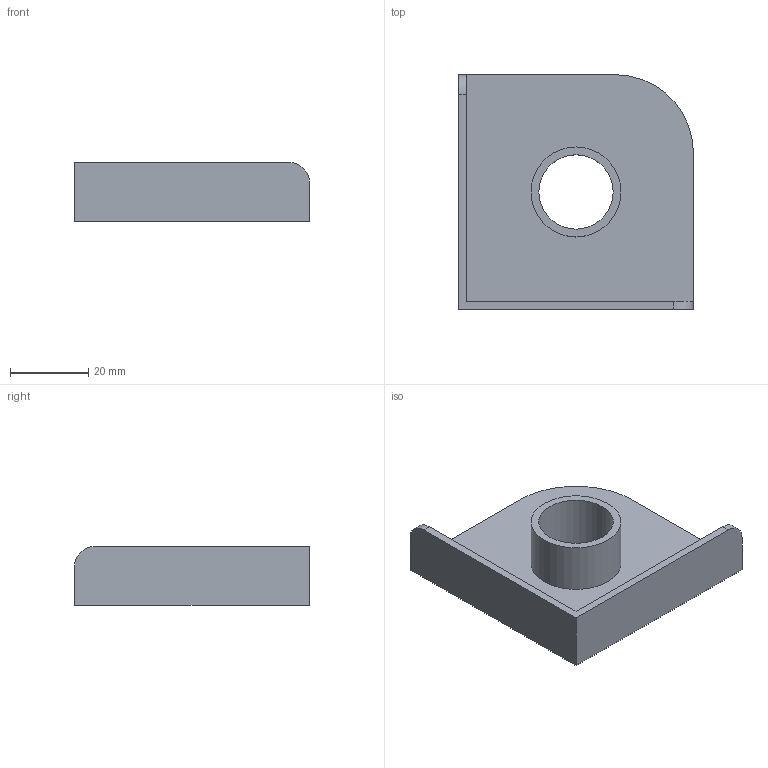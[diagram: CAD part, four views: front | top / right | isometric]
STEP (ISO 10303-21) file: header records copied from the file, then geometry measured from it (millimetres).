
FILE_DESCRIPTION(/* description */ (''),/* implementation_level */ '2;1');
FILE_NAME(/* name */ 'WSP.stp',/* time_stamp */ '2023-05-07T18:15:10+02:00',/* author */ ('AndJas'),/* organization */ ('ATC'),/* preprocessor_version */ 'ST-DEVELOPER v19.2',/* originating_system */ 'Autodesk Inventor 2024',/* authorisation */ 'A.J.');
FILE_SCHEMA (('AUTOMOTIVE_DESIGN { 1 0 10303 214 3 1 1 }'));
Length unit declared in the file: millimetre
Products named in the file (1): WSP
Bounding box: 60 x 60 x 15 mm (x, y, z)
Volume: 11223.1 mm3; surface area: 11848.7 mm2
Topology: 1 solids, 1 shells, 15 faces, 36 edges, 24 vertices
Faces by surface type: plane 10, cylinder 5
Full cylindrical faces by diameter (mm): 19 x1, 23 x1
Entity records: 497 total; most frequent: DIRECTION 78, CARTESIAN_POINT 76, ORIENTED_EDGE 72, EDGE_CURVE 36, LINE 26, VECTOR 26, AXIS2_PLACEMENT_3D 26, VERTEX_POINT 24
